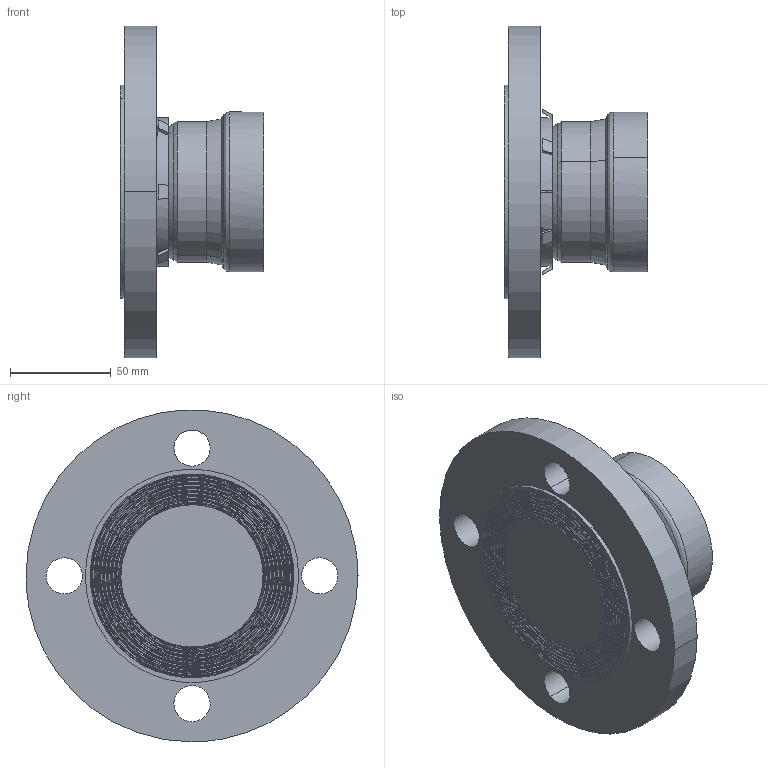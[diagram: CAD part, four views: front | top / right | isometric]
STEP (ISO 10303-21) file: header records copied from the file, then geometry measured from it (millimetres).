
FILE_DESCRIPTION(('STEP AP214'),'1');
FILE_NAME('pim0004625.stp','2015-04-30T12:19:28',('Cad-Pim'),('TransMagic, Inc.'),'TMR11sp0','TransMagic R11',' ');
FILE_SCHEMA(('AUTOMOTIVE_DESIGN'));
Length unit declared in the file: millimetre
Products named in the file (1): pim0004625
Bounding box: 71.56 x 165 x 164.87 mm (x, y, z)
Volume: 422595.1 mm3; surface area: 102014.3 mm2
Topology: 1 solids, 1 shells, 654 faces, 1908 edges, 1224 vertices
Faces by surface type: bspline 577, cylinder 65, cone 12
Entity records: 26754 total; most frequent: CARTESIAN_POINT 10062, ORIENTED_EDGE 3672, EDGE_CURVE 1836, VERTEX_POINT 1224, B_SPLINE_CURVE_WITH_KNOTS 1214, EDGE_LOOP 714, STYLED_ITEM 655, PRESENTATION_STYLE_ASSIGNMENT 655
